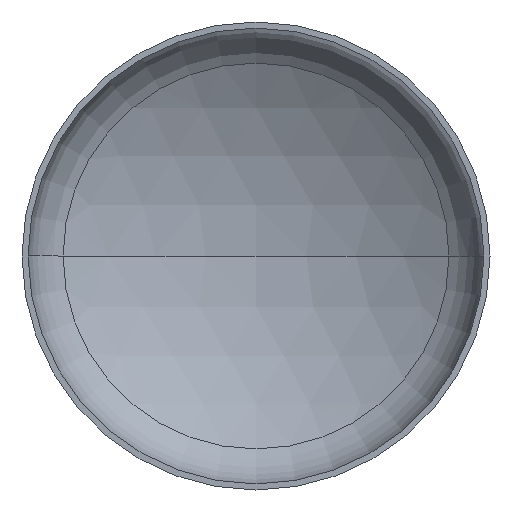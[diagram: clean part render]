
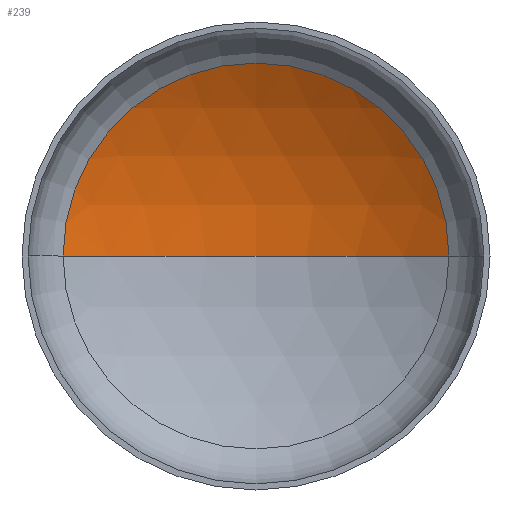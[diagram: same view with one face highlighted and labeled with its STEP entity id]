
A CAD part, front view. The second image highlights one B-rep face of the part: STEP entity #239.
In plain terms, the highlighted spherical face has radius 4800 mm.
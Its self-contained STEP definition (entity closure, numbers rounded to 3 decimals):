
#3 = DIRECTION ( 'NONE',  ( 0., 0., -1. ) ) ;
#13 = DIRECTION ( 'NONE',  ( -1., 0., 0. ) ) ;
#38 = AXIS2_PLACEMENT_3D ( 'NONE', #85, #3, #13 ) ;
#57 = CARTESIAN_POINT ( 'NONE',  ( 2473.703, 912.704, 0. ) ) ;
#72 = AXIS2_PLACEMENT_3D ( 'NONE', #131, #116, #118 ) ;
#75 = AXIS2_PLACEMENT_3D ( 'NONE', #123, #247, #246 ) ;
#80 = AXIS2_PLACEMENT_3D ( 'NONE', #244, #241, #236 ) ;
#85 = CARTESIAN_POINT ( 'NONE',  ( 0., -3200.785, 0. ) ) ;
#116 = DIRECTION ( 'NONE',  ( 0., 0., 1. ) ) ;
#118 = DIRECTION ( 'NONE',  ( 1., 0., 0. ) ) ;
#123 = CARTESIAN_POINT ( 'NONE',  ( 0., -3200.785, 0. ) ) ;
#131 = CARTESIAN_POINT ( 'NONE',  ( 0., -3200.785, 0. ) ) ;
#144 = EDGE_CURVE ( 'NONE', #307, #278, #156, .T. ) ;
#147 = EDGE_CURVE ( 'NONE', #300, #307, #387, .T. ) ;
#151 = EDGE_CURVE ( 'NONE', #300, #278, #230, .T. ) ;
#156 = CIRCLE ( 'NONE', #80, 2473.703 ) ;
#206 = ORIENTED_EDGE ( 'NONE', *, *, #144, .T. ) ;
#211 = SPHERICAL_SURFACE ( 'NONE', #38, 4800. ) ;
#214 = ORIENTED_EDGE ( 'NONE', *, *, #147, .T. ) ;
#217 = FACE_OUTER_BOUND ( 'NONE', #359, .T. ) ;
#230 = CIRCLE ( 'NONE', #72, 4800. ) ;
#236 = DIRECTION ( 'NONE',  ( 1., 0., 0. ) ) ;
#239 = ADVANCED_FACE ( 'NONE', ( #217 ), #211, .F. ) ;
#241 = DIRECTION ( 'NONE',  ( 0., -1., 0. ) ) ;
#244 = CARTESIAN_POINT ( 'NONE',  ( 0., 912.704, 0. ) ) ;
#246 = DIRECTION ( 'NONE',  ( -1., 0., 0. ) ) ;
#247 = DIRECTION ( 'NONE',  ( 0., 0., -1. ) ) ;
#271 = ORIENTED_EDGE ( 'NONE', *, *, #151, .F. ) ;
#278 = VERTEX_POINT ( 'NONE', #374 ) ;
#300 = VERTEX_POINT ( 'NONE', #383 ) ;
#307 = VERTEX_POINT ( 'NONE', #57 ) ;
#359 = EDGE_LOOP ( 'NONE', ( #271, #214, #206 ) ) ;
#374 = CARTESIAN_POINT ( 'NONE',  ( -2473.703, 912.704, 0. ) ) ;
#383 = CARTESIAN_POINT ( 'NONE',  ( 0., 1599.215, 0. ) ) ;
#387 = CIRCLE ( 'NONE', #75, 4800. ) ;
